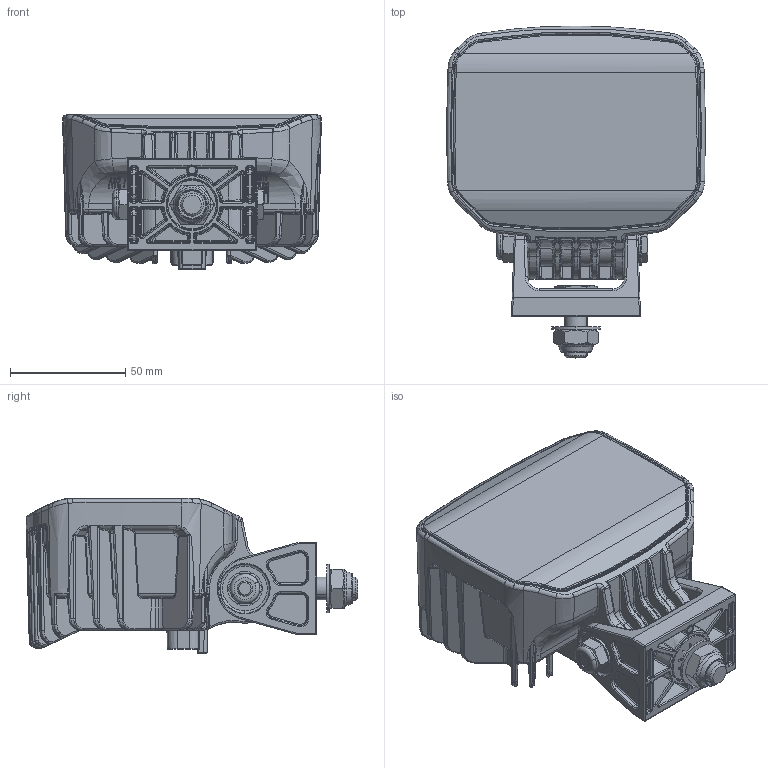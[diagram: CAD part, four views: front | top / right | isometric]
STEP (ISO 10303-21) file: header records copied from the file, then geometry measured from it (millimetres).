
FILE_DESCRIPTION(('CATIA V5 STEP Exchange','CAx-IF Rec.Pracs.--- Model Styling and Organization---1.5--- 2016-08-15','CAx-IF Rec.Pracs.---Supplemental Geometry---1.0---2011-11-01','CAx-IF Rec.Pracs.--- Composite Materials ---1.1---2010-07-15'),'2;1');
FILE_NAME('E:\tmp\ddx\2011218\HELLA_3D_data_Power_Beam_1800_compact_1GA-996-488-00.stp','2022-01-18T07:39:03+00:00',('none'),('none'),'CATIA Version 5-6 Release 2020 SP3 HF9','CATIA V5 STEP AP214 Edition 3 v2','none');
FILE_SCHEMA(('AUTOMOTIVE_DESIGN { 1 0 10303 214 3 1 1 1 }'));
Products named in the file (1): 10001924125_D10_001
Bounding box: 112.32 x 143.95 x 67.58 mm (x, y, z)
Volume: 453417.7 mm3; surface area: 95944.8 mm2
Topology: 2 solids, 3 shells, 4323 faces, 10580 edges, 6141 vertices
Faces by surface type: bspline 1650, plane 921, cylinder 919, extrusion 248, cone 243, torus 234, sphere 108
Entity records: 212785 total; most frequent: CARTESIAN_POINT 132413, ORIENTED_EDGE 20718, EDGE_CURVE 10359, DIRECTION 8727, VERTEX_POINT 6141, B_SPLINE_CURVE_WITH_KNOTS 6064, EDGE_LOOP 4450, ADVANCED_FACE 4323
